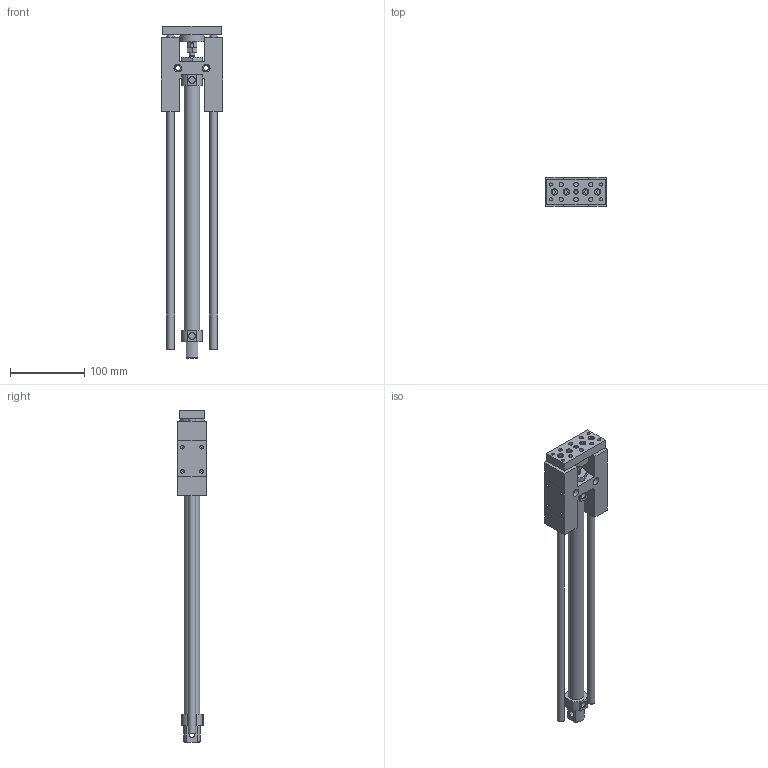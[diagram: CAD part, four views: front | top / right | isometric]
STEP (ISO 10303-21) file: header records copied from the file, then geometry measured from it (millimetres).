
FILE_DESCRIPTION((''),'2;1');
FILE_NAME('I:\3D電子目錄\氣缸\GHB(U)\GHB(U)\GHB(U)20\GHB(U)20x300.stp','2007-10-22T16:15:42',('Administrator'),(''),'Autodesk Inventor 11','Autodesk Inventor 11','');
FILE_SCHEMA(('AUTOMOTIVE_DESIGN { 1 0 10303 214 1 1 1 1 }'));
Length unit declared in the file: millimetre
Products named in the file (1): GHB(U)20
Bounding box: 82 x 38 x 446 mm (x, y, z)
Volume: 433050.5 mm3; surface area: 94907.3 mm2
Topology: 1 solids, 1 shells, 241 faces, 563 edges, 363 vertices
Faces by surface type: plane 132, bspline 40, cylinder 38, cone 31
Full cylindrical faces by diameter (mm): 4.917 x4, 5 x1, 6 x3, 6.6 x1, 7.5 x4, 8 x3, 8.5 x6, 10 x2, 13 x2, 21.2 x1, 33 x1
Entity records: 6788 total; most frequent: CARTESIAN_POINT 1686, DIRECTION 1006, ORIENTED_EDGE 964, EDGE_CURVE 482, EDGE_LOOP 372, AXIS2_PLACEMENT_3D 366, VERTEX_POINT 348, VECTOR 274
